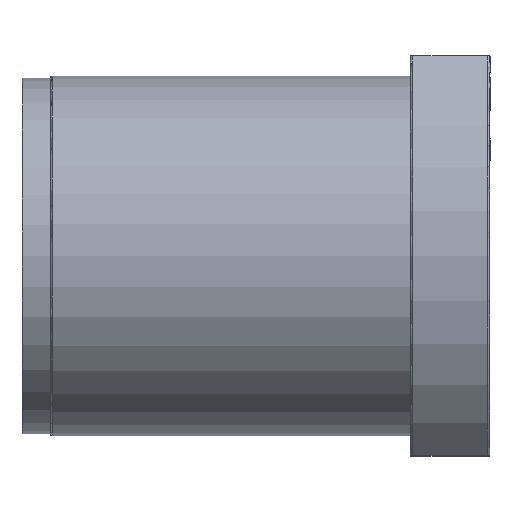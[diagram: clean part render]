
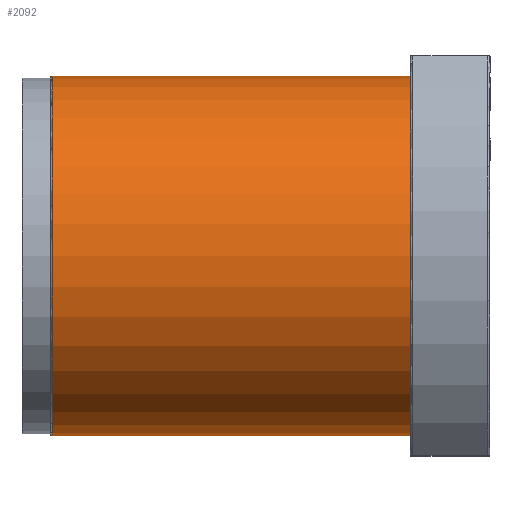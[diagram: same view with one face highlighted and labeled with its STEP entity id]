
A CAD part, top view. The second image highlights one B-rep face of the part: STEP entity #2092.
In plain terms, the highlighted cylindrical face has radius 31.5 mm (diameter 63 mm), a partial arc.
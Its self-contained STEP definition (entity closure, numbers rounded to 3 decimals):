
#132 = DIRECTION ( 'NONE',  ( 1., 0., 0. ) ) ;
#138 = DIRECTION ( 'NONE',  ( 1., 0., 0. ) ) ;
#177 = VERTEX_POINT ( 'NONE', #1323 ) ;
#197 = ORIENTED_EDGE ( 'NONE', *, *, #1703, .T. ) ;
#317 = LINE ( 'NONE', #2307, #2185 ) ;
#595 = CARTESIAN_POINT ( 'NONE',  ( -16.19, 0., 0. ) ) ;
#632 = ORIENTED_EDGE ( 'NONE', *, *, #1591, .T. ) ;
#718 = VERTEX_POINT ( 'NONE', #1102 ) ;
#748 = AXIS2_PLACEMENT_3D ( 'NONE', #1963, #138, #1742 ) ;
#789 = VECTOR ( 'NONE', #132, 1000. ) ;
#806 = ORIENTED_EDGE ( 'NONE', *, *, #2280, .T. ) ;
#1102 = CARTESIAN_POINT ( 'NONE',  ( -78.89, -31.5, 0. ) ) ;
#1110 = CARTESIAN_POINT ( 'NONE',  ( -16.19, -31.5, 0. ) ) ;
#1127 = LINE ( 'NONE', #1498, #789 ) ;
#1200 = DIRECTION ( 'NONE',  ( 0., 1., 0. ) ) ;
#1323 = CARTESIAN_POINT ( 'NONE',  ( -78.89, 31.5, 0. ) ) ;
#1327 = CYLINDRICAL_SURFACE ( 'NONE', #748, 31.5 ) ;
#1332 = CARTESIAN_POINT ( 'NONE',  ( -16.19, 31.5, 0. ) ) ;
#1383 = DIRECTION ( 'NONE',  ( 0., 1., 0. ) ) ;
#1436 = AXIS2_PLACEMENT_3D ( 'NONE', #595, #2322, #1383 ) ;
#1485 = DIRECTION ( 'NONE',  ( 1., 0., 0. ) ) ;
#1498 = CARTESIAN_POINT ( 'NONE',  ( -78.89, -31.5, 0. ) ) ;
#1524 = FACE_OUTER_BOUND ( 'NONE', #1635, .T. ) ;
#1591 = EDGE_CURVE ( 'NONE', #2504, #1596, #1601, .T. ) ;
#1596 = VERTEX_POINT ( 'NONE', #1332 ) ;
#1601 = CIRCLE ( 'NONE', #1436, 31.5 ) ;
#1624 = CARTESIAN_POINT ( 'NONE',  ( -78.89, 0., 0. ) ) ;
#1635 = EDGE_LOOP ( 'NONE', ( #197, #806, #632, #2061 ) ) ;
#1638 = AXIS2_PLACEMENT_3D ( 'NONE', #1624, #2163, #1200 ) ;
#1703 = EDGE_CURVE ( 'NONE', #177, #718, #2210, .T. ) ;
#1742 = DIRECTION ( 'NONE',  ( 0., 1., 0. ) ) ;
#1963 = CARTESIAN_POINT ( 'NONE',  ( -78.89, 0., 0. ) ) ;
#2061 = ORIENTED_EDGE ( 'NONE', *, *, #2317, .F. ) ;
#2092 = ADVANCED_FACE ( 'NONE', ( #1524 ), #1327, .T. ) ;
#2163 = DIRECTION ( 'NONE',  ( 1., 0., 0. ) ) ;
#2185 = VECTOR ( 'NONE', #1485, 1000. ) ;
#2210 = CIRCLE ( 'NONE', #1638, 31.5 ) ;
#2280 = EDGE_CURVE ( 'NONE', #718, #2504, #1127, .T. ) ;
#2307 = CARTESIAN_POINT ( 'NONE',  ( -78.89, 31.5, 0. ) ) ;
#2317 = EDGE_CURVE ( 'NONE', #177, #1596, #317, .T. ) ;
#2322 = DIRECTION ( 'NONE',  ( -1., 0., 0. ) ) ;
#2504 = VERTEX_POINT ( 'NONE', #1110 ) ;
